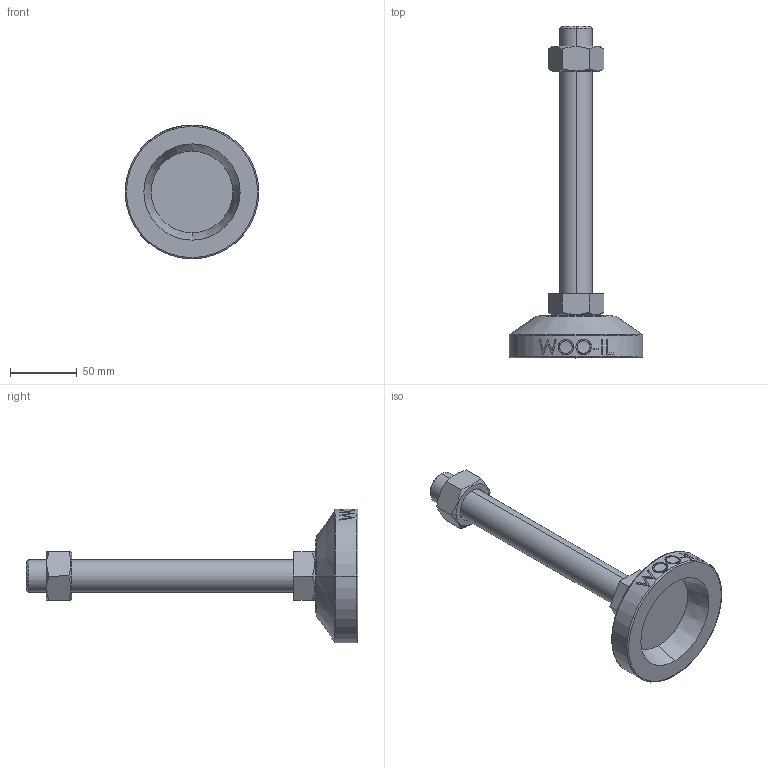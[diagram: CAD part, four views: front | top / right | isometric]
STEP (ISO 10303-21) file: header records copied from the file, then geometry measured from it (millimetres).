
FILE_DESCRIPTION (( 'STEP AP214' ), '1' );
FILE_NAME ('PAD-B100-M24-200.step', '2021-01-26T23:42:45', ( '' ), ( '' ), 'SwSTEP 2.0', 'SolidWorks 2019', '' );
FILE_SCHEMA (( 'AUTOMOTIVE_DESIGN' ));
Length unit declared in the file: millimetre
Products named in the file (2): PAD-B100-M24-200
Bounding box: 100 x 248 x 100 mm (x, y, z)
Volume: 269034.1 mm3; surface area: 48836.8 mm2
Topology: 3 solids, 3 shells, 100 faces, 231 edges, 148 vertices
Faces by surface type: plane 48, cylinder 16, cone 16, bspline 16, torus 4
Entity records: 4544 total; most frequent: CARTESIAN_POINT 2333, ORIENTED_EDGE 462, DIRECTION 403, EDGE_CURVE 231, AXIS2_PLACEMENT_3D 152, VERTEX_POINT 148, EDGE_LOOP 113, ADVANCED_FACE 100
